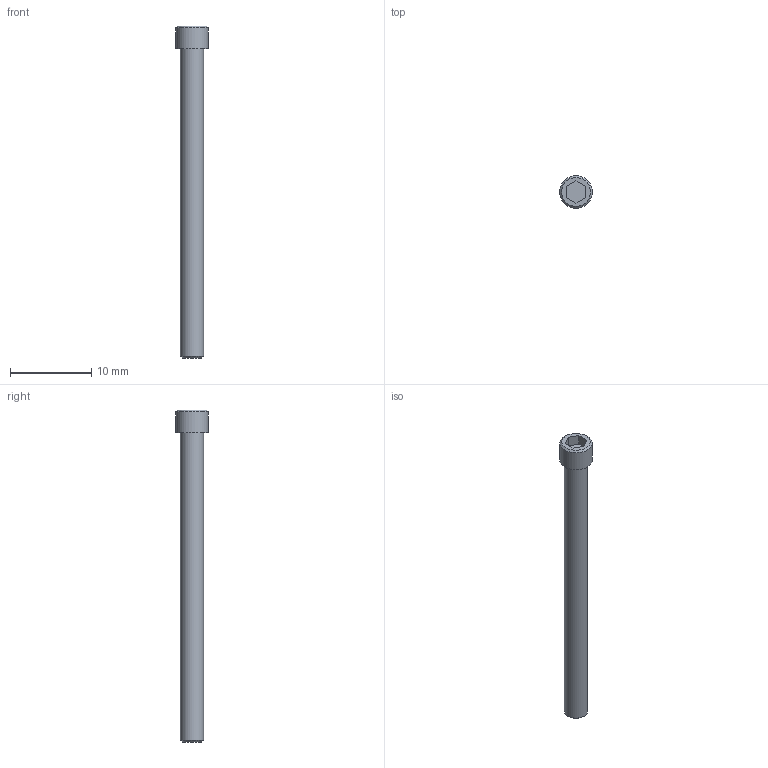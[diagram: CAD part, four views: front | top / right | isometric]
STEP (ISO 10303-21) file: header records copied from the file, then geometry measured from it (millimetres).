
FILE_DESCRIPTION((''),'2;1');
FILE_NAME('C:\Users\Stan\Desktop\import\SHCS 4-40 UNCx1.5.ipt.step','2011-08-18T17:44:35',(''),(''),'Autodesk Inventor 2012','Autodesk Inventor 2012','');
FILE_SCHEMA(('AUTOMOTIVE_DESIGN { 1 0 10303 214 1 1 1 1 }'));
Length unit declared in the file: inch
Products named in the file (1): SHCS 4-40 UNCx1.5
Bounding box: 4.01 x 4.01 x 40.89 mm (x, y, z)
Volume: 270.6 mm3; surface area: 408.7 mm2
Topology: 1 solids, 1 shells, 14 faces, 28 edges, 18 vertices
Faces by surface type: plane 10, cone 2, cylinder 2
Full cylindrical faces by diameter (mm): 2.845 x1, 4.013 x1
Entity records: 391 total; most frequent: DIRECTION 60, CARTESIAN_POINT 57, ORIENTED_EDGE 48, EDGE_CURVE 24, AXIS2_PLACEMENT_3D 21, EDGE_LOOP 20, VERTEX_POINT 18, VECTOR 18
